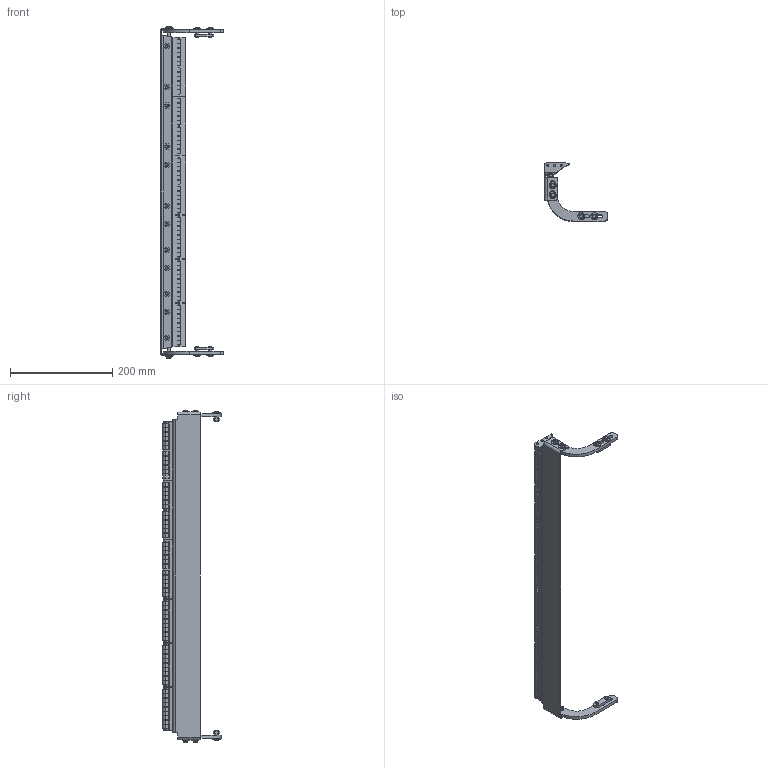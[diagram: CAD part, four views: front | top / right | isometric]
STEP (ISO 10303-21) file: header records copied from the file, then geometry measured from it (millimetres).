
FILE_DESCRIPTION((''),'2;1');
FILE_NAME('518355-24_ASM','2023-03-24T',('jenni.wallner'),(''),'PRO/ENGINEER BY PARAMETRIC TECHNOLOGY CORPORATION, 2012420','PRO/ENGINEER BY PARAMETRIC TECHNOLOGY CORPORATION, 2012420','');
FILE_SCHEMA(('CONFIG_CONTROL_DESIGN'));
Length unit declared in the file: inch
Products named in the file (75): 807-1830_13-1-SOLID1; 807-1830_20-1-SOLID1; 807-1830_16-1-SOLID1; 807-1830_27-1-SOLID1; 807-1830_17-1-SOLID1; 807-1830_8-1-SOLID1; 807-1830_19-1-SOLID1; 807-1830_32-1-SOLID1; 807-1830_36-1-SOLID1; 807-1830_4-1-SOLID1; 807-1830_21-1-SOLID1; 807-1830_23-1-SOLID1; 807-1830_35-1-SOLID1; 807-1830_11-1-SOLID1; 807-1830_25-1-SOLID1; 807-1830_1-1-SOLID1; 807-1830_5-1-SOLID1; 807-1830_26-1-SOLID1; 807-1830_31-1-SOLID1; 807-1830_30-1-SOLID1; 807-1830-1-SOLID1; 807-1830_7-1-SOLID1; 807-1830_18-1-SOLID1; 807-1830_15-1-SOLID1; 807-1830_33-1-SOLID1; 807-1830_12-1-SOLID1; 807-1830_10-1-SOLID1; 807-1830_22-1-SOLID1; 807-1830_29-1-SOLID1; 807-1830_9-1-SOLID1; 807-1830_6-1-SOLID1; 807-1830_14-1-SOLID1; 807-1830_24-1-SOLID1; 807-1830_2-1-SOLID1; 807-1830_3-1-SOLID1; 807-1830_34-1-SOLID1; 807-1830_28-1-SOLID1; 807-1830_ASM; 960616MSSF; 807-1829_6-1-SOLID1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
Assembly tree (87 placements, depth 4):
  518355-24_ASM
    ASM0001_ASM
      807-1830_ASM  x3
        807-1830_13-1-SOLID1
        807-1830_20-1-SOLID1
        807-1830_16-1-SOLID1
        807-1830_27-1-SOLID1
        807-1830_17-1-SOLID1
        807-1830_8-1-SOLID1
        807-1830_19-1-SOLID1
        807-1830_32-1-SOLID1
        807-1830_36-1-SOLID1
        807-1830_4-1-SOLID1
        807-1830_21-1-SOLID1
        807-1830_23-1-SOLID1
        807-1830_35-1-SOLID1
        807-1830_11-1-SOLID1
        807-1830_25-1-SOLID1
        807-1830_1-1-SOLID1
        807-1830_5-1-SOLID1
        807-1830_26-1-SOLID1
        807-1830_31-1-SOLID1
        807-1830_30-1-SOLID1
        807-1830-1-SOLID1
        807-1830_7-1-SOLID1
        807-1830_18-1-SOLID1
        807-1830_15-1-SOLID1
        807-1830_33-1-SOLID1
        807-1830_12-1-SOLID1
        807-1830_10-1-SOLID1
        807-1830_22-1-SOLID1
        807-1830_29-1-SOLID1
        807-1830_9-1-SOLID1
        807-1830_6-1-SOLID1
        807-1830_14-1-SOLID1
        807-1830_24-1-SOLID1
        807-1830_2-1-SOLID1
        807-1830_3-1-SOLID1
        807-1830_34-1-SOLID1
        807-1830_28-1-SOLID1
      960616MSSF  x8
      807-1829_ASM  x3
        807-1829_6-1-SOLID1
        807-1829_25-1-SOLID1
        807-1829_16-1-SOLID1
        807-1829_2-1-SOLID1
        807-1829_17-1-SOLID1
        807-1829_7-1-SOLID1
        807-1829_14-1-SOLID1
        807-1829_8-1-SOLID1
        807-1829_26-1-SOLID1
        807-1829_3-1-SOLID1
        807-1829_12-1-SOLID1
        807-1829_23-1-SOLID1
        807-1829_5-1-SOLID1
        807-1829_15-1-SOLID1
        807-1829-1-SOLID1
        807-1829_27-1-SOLID1
        807-1829_4-1-SOLID1
        CUT-EXTRUDE1_2_
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Bounding box: 122.82 x 114.68 x 648.12 mm (x, y, z)
Volume: 483799 mm3; surface area: 297314 mm2
Topology: 214 solids, 214 shells, 1483 faces, 2973 edges, 1963 vertices
Faces by surface type: plane 736, cylinder 691, cone 56
Entity records: 16682 total; most frequent: DIRECTION 3208, CARTESIAN_POINT 2674, ORIENTED_EDGE 2218, AXIS2_PLACEMENT_3D 1329, EDGE_CURVE 1109, VERTEX_POINT 733, EDGE_LOOP 616, CIRCLE 553
